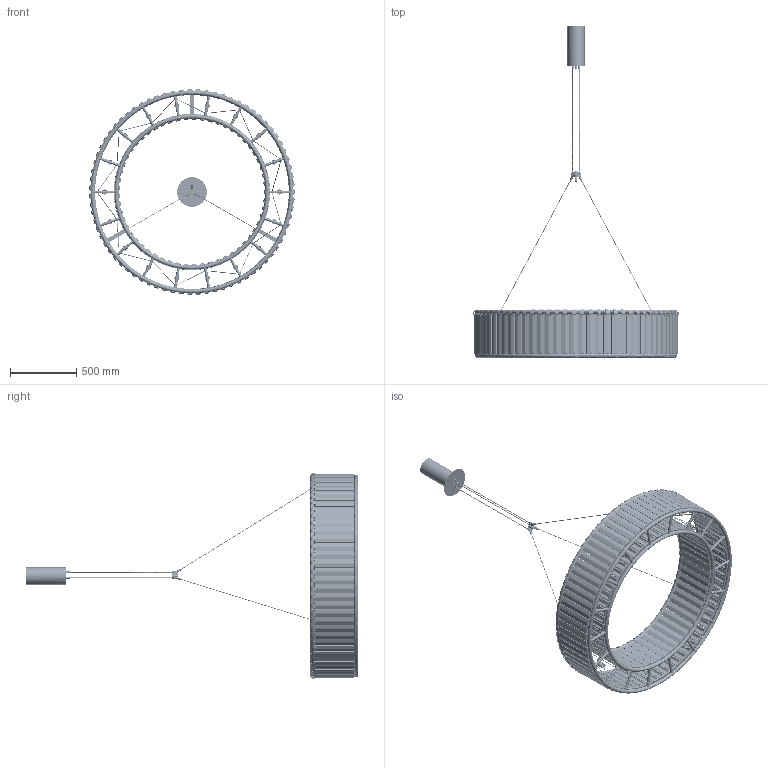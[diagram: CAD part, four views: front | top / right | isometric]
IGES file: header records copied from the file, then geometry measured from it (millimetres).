
Start section: SolidWorks IGES file using analytic representation for surfaces
Global section: file name: C:\SANTACOLE_PDM\Proyectos Catálogo\PROD-P13-034 -- ESTADIO\6_Técnico comercial\3D\Estadio 150_2.IGS; native system: SolidWorks 2019; preprocessor: SolidWorks 2019; author: ana.pascual; date: 200408.160635; units: millimetre
Bounding box: 1552.48 x 2505.75 x 1552.82 mm (x, y, z)
Surface area: 14457263.2 mm2 (no closed solid volume)
Topology: 0 solids, 0 shells, 21648 faces, 317079 edges, 315915 vertices
Faces by surface type: bspline 21648
